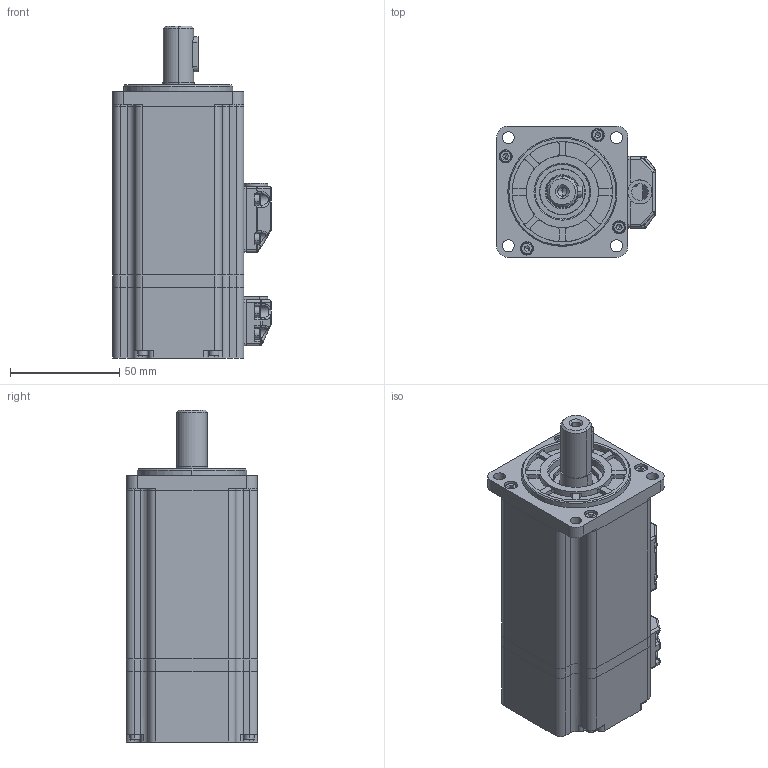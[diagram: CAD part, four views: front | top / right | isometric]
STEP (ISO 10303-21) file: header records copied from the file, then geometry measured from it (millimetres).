
FILE_DESCRIPTION (( 'STEP AP203' ), '1' );
FILE_NAME ('淕儂蚾饜.STEP', '2020-03-17T06:35:58', ( 'admin' ), ( '' ), 'SwSTEP 2.0', 'SolidWorks 2016', '' );
FILE_SCHEMA (( 'CONFIG_CONTROL_DESIGN' ));
Length unit declared in the file: millimetre
Products named in the file (1): 淕儂蚾饜
Bounding box: 72.5 x 60 x 152 mm (x, y, z)
Volume: 163871 mm3; surface area: 102527.4 mm2
Topology: 28 solids, 28 shells, 1589 faces, 4254 edges, 2662 vertices
Faces by surface type: cylinder 659, plane 594, cone 148, torus 94, sphere 70, bspline 24
Entity records: 52622 total; most frequent: CARTESIAN_POINT 13038, DIRECTION 8619, ORIENTED_EDGE 8148, EDGE_CURVE 4074, AXIS2_PLACEMENT_3D 3355, VERTEX_POINT 2598, LINE 1909, VECTOR 1909
